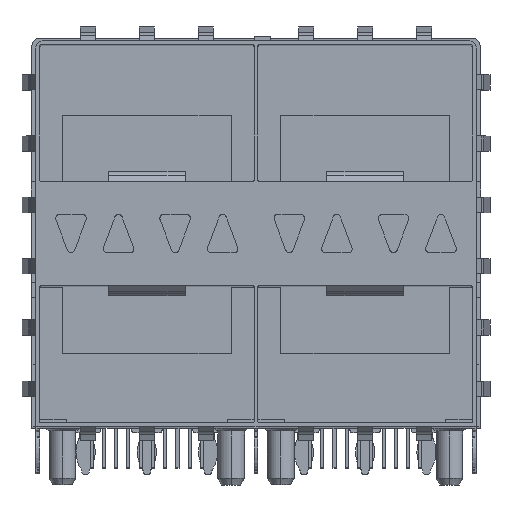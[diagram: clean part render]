
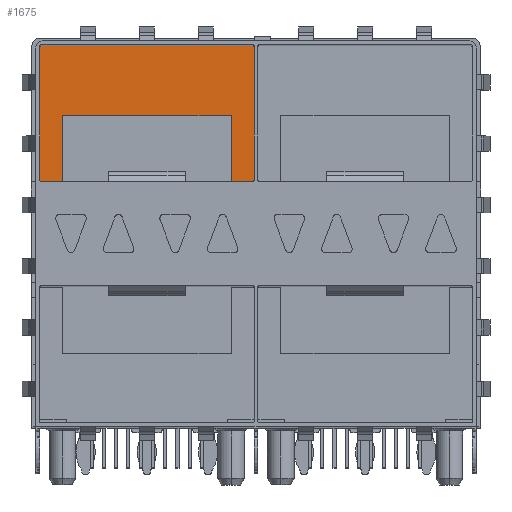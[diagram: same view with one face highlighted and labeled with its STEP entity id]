
A CAD part, top view. The second image highlights one B-rep face of the part: STEP entity #1675.
In plain terms, the highlighted planar face has unit normal (0, 0, 1).
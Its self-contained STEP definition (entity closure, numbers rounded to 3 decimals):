
#160 = CIRCLE ( 'NONE', #22641, 0.1 ) ;
#972 = DIRECTION ( 'NONE',  ( -1., 0., 0. ) ) ;
#1020 = DIRECTION ( 'NONE',  ( -1., 0., 0. ) ) ;
#1322 = ORIENTED_EDGE ( 'NONE', *, *, #25186, .T. ) ;
#1675 = ADVANCED_FACE ( 'NONE', ( #22818 ), #7968, .F. ) ;
#2584 = VECTOR ( 'NONE', #42017, 1000. ) ;
#3447 = EDGE_CURVE ( 'NONE', #13535, #38350, #7361, .T. ) ;
#4249 = ORIENTED_EDGE ( 'NONE', *, *, #3447, .T. ) ;
#4407 = ORIENTED_EDGE ( 'NONE', *, *, #30314, .T. ) ;
#4454 = VERTEX_POINT ( 'NONE', #38262 ) ;
#4802 = DIRECTION ( 'NONE',  ( -1., 0., 0. ) ) ;
#4827 = AXIS2_PLACEMENT_3D ( 'NONE', #27661, #40556, #4802 ) ;
#4896 = VERTEX_POINT ( 'NONE', #37229 ) ;
#4938 = AXIS2_PLACEMENT_3D ( 'NONE', #11014, #8179, #8321 ) ;
#5225 = LINE ( 'NONE', #30810, #30123 ) ;
#5937 = ORIENTED_EDGE ( 'NONE', *, *, #40581, .T. ) ;
#6344 = CARTESIAN_POINT ( 'NONE',  ( -0.225, 24.95, -48.55 ) ) ;
#6971 = CIRCLE ( 'NONE', #7320, 0.1 ) ;
#7163 = CIRCLE ( 'NONE', #21894, 0.1 ) ;
#7288 = VERTEX_POINT ( 'NONE', #6344 ) ;
#7320 = AXIS2_PLACEMENT_3D ( 'NONE', #37740, #34427, #972 ) ;
#7342 = ORIENTED_EDGE ( 'NONE', *, *, #32277, .T. ) ;
#7361 = LINE ( 'NONE', #36166, #35810 ) ;
#7968 = PLANE ( 'NONE',  #4827 ) ;
#8179 = DIRECTION ( 'NONE',  ( 0., 0., 1. ) ) ;
#8218 = CARTESIAN_POINT ( 'NONE',  ( -1.625, 20.35, -48.55 ) ) ;
#8321 = DIRECTION ( 'NONE',  ( -1., 0., 0. ) ) ;
#8964 = VERTEX_POINT ( 'NONE', #23186 ) ;
#9333 = LINE ( 'NONE', #19441, #18509 ) ;
#10033 = DIRECTION ( 'NONE',  ( 0., 0., 1. ) ) ;
#10174 = VERTEX_POINT ( 'NONE', #16177 ) ;
#10677 = VERTEX_POINT ( 'NONE', #31347 ) ;
#10942 = VERTEX_POINT ( 'NONE', #35758 ) ;
#11014 = CARTESIAN_POINT ( 'NONE',  ( -0.225, 24.85, -48.55 ) ) ;
#11693 = LINE ( 'NONE', #22112, #25915 ) ;
#12155 = DIRECTION ( 'NONE',  ( -1., 0., 0. ) ) ;
#12589 = DIRECTION ( 'NONE',  ( 1., 0., 0. ) ) ;
#13257 = CARTESIAN_POINT ( 'NONE',  ( -0.125, 24.85, -48.55 ) ) ;
#13535 = VERTEX_POINT ( 'NONE', #30720 ) ;
#14586 = EDGE_CURVE ( 'NONE', #38350, #7288, #30506, .T. ) ;
#14629 = VERTEX_POINT ( 'NONE', #14820 ) ;
#14820 = CARTESIAN_POINT ( 'NONE',  ( -14.025, 16., -48.55 ) ) ;
#15642 = DIRECTION ( 'NONE',  ( 0., -1., 0. ) ) ;
#16177 = CARTESIAN_POINT ( 'NONE',  ( -1.625, 16., -48.55 ) ) ;
#17750 = VECTOR ( 'NONE', #17852, 1000. ) ;
#17836 = CARTESIAN_POINT ( 'NONE',  ( -14.025, 16.1, -48.55 ) ) ;
#17852 = DIRECTION ( 'NONE',  ( 0., -1., 0. ) ) ;
#18067 = VECTOR ( 'NONE', #12589, 1000. ) ;
#18509 = VECTOR ( 'NONE', #32360, 1000. ) ;
#19355 = ORIENTED_EDGE ( 'NONE', *, *, #34800, .T. ) ;
#19441 = CARTESIAN_POINT ( 'NONE',  ( -12.625, 16., -48.55 ) ) ;
#20280 = CARTESIAN_POINT ( 'NONE',  ( -0.225, 16.1, -48.55 ) ) ;
#21205 = EDGE_CURVE ( 'NONE', #7288, #4454, #11693, .T. ) ;
#21315 = EDGE_LOOP ( 'NONE', ( #30138, #29809, #5937, #7342, #19355, #26944, #40697, #1322, #4407, #30206, #30125, #4249 ) ) ;
#21894 = AXIS2_PLACEMENT_3D ( 'NONE', #17836, #23972, #1020 ) ;
#22112 = CARTESIAN_POINT ( 'NONE',  ( -0.225, 24.95, -48.55 ) ) ;
#22641 = AXIS2_PLACEMENT_3D ( 'NONE', #20280, #10033, #32767 ) ;
#22818 = FACE_OUTER_BOUND ( 'NONE', #21315, .T. ) ;
#23081 = VECTOR ( 'NONE', #15642, 1000. ) ;
#23186 = CARTESIAN_POINT ( 'NONE',  ( -1.625, 20.35, -48.55 ) ) ;
#23541 = CARTESIAN_POINT ( 'NONE',  ( -12.625, 16., -48.55 ) ) ;
#23972 = DIRECTION ( 'NONE',  ( 0., 0., 1. ) ) ;
#24192 = EDGE_CURVE ( 'NONE', #10174, #10942, #24629, .T. ) ;
#24629 = LINE ( 'NONE', #32321, #18067 ) ;
#25186 = EDGE_CURVE ( 'NONE', #10677, #8964, #5225, .T. ) ;
#25915 = VECTOR ( 'NONE', #12155, 1000. ) ;
#26944 = ORIENTED_EDGE ( 'NONE', *, *, #32934, .T. ) ;
#27661 = CARTESIAN_POINT ( 'NONE',  ( -14.375, 25.2, -48.55 ) ) ;
#28442 = CARTESIAN_POINT ( 'NONE',  ( -12.625, 20.35, -48.55 ) ) ;
#29322 = EDGE_CURVE ( 'NONE', #39972, #10677, #34149, .T. ) ;
#29809 = ORIENTED_EDGE ( 'NONE', *, *, #21205, .T. ) ;
#30123 = VECTOR ( 'NONE', #37679, 1000. ) ;
#30125 = ORIENTED_EDGE ( 'NONE', *, *, #32999, .T. ) ;
#30138 = ORIENTED_EDGE ( 'NONE', *, *, #14586, .T. ) ;
#30206 = ORIENTED_EDGE ( 'NONE', *, *, #24192, .T. ) ;
#30314 = EDGE_CURVE ( 'NONE', #8964, #10174, #31987, .T. ) ;
#30506 = CIRCLE ( 'NONE', #4938, 0.1 ) ;
#30720 = CARTESIAN_POINT ( 'NONE',  ( -0.125, 16.1, -48.55 ) ) ;
#30746 = VERTEX_POINT ( 'NONE', #39350 ) ;
#30810 = CARTESIAN_POINT ( 'NONE',  ( -12.625, 20.35, -48.55 ) ) ;
#31347 = CARTESIAN_POINT ( 'NONE',  ( -12.625, 20.35, -48.55 ) ) ;
#31987 = LINE ( 'NONE', #8218, #17750 ) ;
#32265 = CARTESIAN_POINT ( 'NONE',  ( -14.125, 24.85, -48.55 ) ) ;
#32277 = EDGE_CURVE ( 'NONE', #4896, #30746, #39397, .T. ) ;
#32321 = CARTESIAN_POINT ( 'NONE',  ( -1.625, 16., -48.55 ) ) ;
#32360 = DIRECTION ( 'NONE',  ( 1., 0., 0. ) ) ;
#32767 = DIRECTION ( 'NONE',  ( -1., 0., 0. ) ) ;
#32934 = EDGE_CURVE ( 'NONE', #14629, #39972, #9333, .T. ) ;
#32999 = EDGE_CURVE ( 'NONE', #10942, #13535, #160, .T. ) ;
#34149 = LINE ( 'NONE', #28442, #2584 ) ;
#34427 = DIRECTION ( 'NONE',  ( 0., 0., 1. ) ) ;
#34800 = EDGE_CURVE ( 'NONE', #30746, #14629, #7163, .T. ) ;
#35758 = CARTESIAN_POINT ( 'NONE',  ( -0.225, 16., -48.55 ) ) ;
#35810 = VECTOR ( 'NONE', #39482, 1000. ) ;
#36166 = CARTESIAN_POINT ( 'NONE',  ( -0.125, 16.1, -48.55 ) ) ;
#37229 = CARTESIAN_POINT ( 'NONE',  ( -14.125, 24.85, -48.55 ) ) ;
#37679 = DIRECTION ( 'NONE',  ( 1., 0., 0. ) ) ;
#37740 = CARTESIAN_POINT ( 'NONE',  ( -14.025, 24.85, -48.55 ) ) ;
#38262 = CARTESIAN_POINT ( 'NONE',  ( -14.025, 24.95, -48.55 ) ) ;
#38350 = VERTEX_POINT ( 'NONE', #13257 ) ;
#39350 = CARTESIAN_POINT ( 'NONE',  ( -14.125, 16.1, -48.55 ) ) ;
#39397 = LINE ( 'NONE', #32265, #23081 ) ;
#39482 = DIRECTION ( 'NONE',  ( 0., 1., 0. ) ) ;
#39972 = VERTEX_POINT ( 'NONE', #23541 ) ;
#40556 = DIRECTION ( 'NONE',  ( 0., 0., -1. ) ) ;
#40581 = EDGE_CURVE ( 'NONE', #4454, #4896, #6971, .T. ) ;
#40697 = ORIENTED_EDGE ( 'NONE', *, *, #29322, .T. ) ;
#42017 = DIRECTION ( 'NONE',  ( 0., 1., 0. ) ) ;
